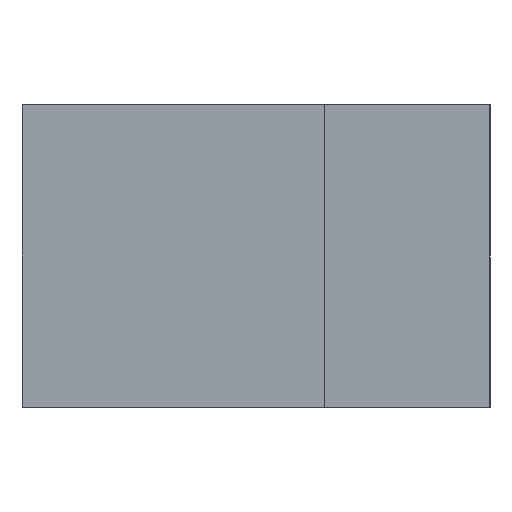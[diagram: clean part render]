
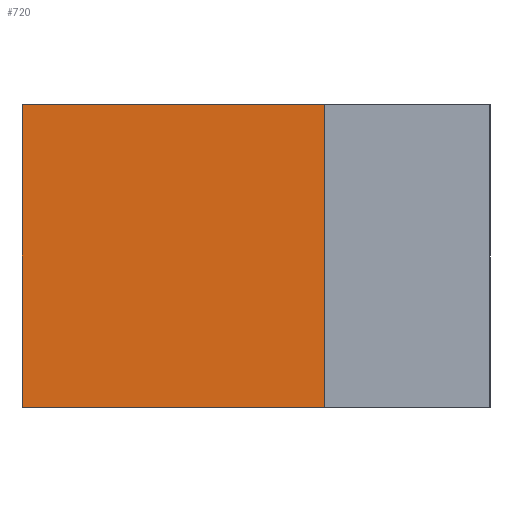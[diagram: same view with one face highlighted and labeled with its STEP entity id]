
A CAD part, left-side view. The second image highlights one B-rep face of the part: STEP entity #720.
In plain terms, the highlighted planar face has unit normal (-1, 0, 0).
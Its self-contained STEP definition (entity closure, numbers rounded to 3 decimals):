
#44 = PLANE('',#45);
#45 = AXIS2_PLACEMENT_3D('',#46,#47,#48);
#46 = CARTESIAN_POINT('',(-99.7,-17.,12.));
#47 = DIRECTION('',(0.,0.,1.));
#48 = DIRECTION('',(1.,0.,0.));
#100 = PLANE('',#101);
#101 = AXIS2_PLACEMENT_3D('',#102,#103,#104);
#102 = CARTESIAN_POINT('',(-99.7,-17.,1.));
#103 = DIRECTION('',(0.,0.,1.));
#104 = DIRECTION('',(1.,0.,0.));
#126 = PLANE('',#127);
#127 = AXIS2_PLACEMENT_3D('',#128,#129,#130);
#128 = CARTESIAN_POINT('',(-111.7,-11.,1.));
#129 = DIRECTION('',(0.,1.,0.));
#130 = DIRECTION('',(0.,0.,1.));
#250 = VERTEX_POINT('',#251);
#251 = CARTESIAN_POINT('',(-111.7,0.,12.));
#265 = PLANE('',#266);
#266 = AXIS2_PLACEMENT_3D('',#267,#268,#269);
#267 = CARTESIAN_POINT('',(-99.7,0.,1.));
#268 = DIRECTION('',(0.,1.,0.));
#269 = DIRECTION('',(0.,0.,1.));
#277 = EDGE_CURVE('',#278,#250,#280,.T.);
#278 = VERTEX_POINT('',#279);
#279 = CARTESIAN_POINT('',(-111.7,-11.,12.));
#280 = SURFACE_CURVE('',#281,(#285,#292),.PCURVE_S1.);
#281 = LINE('',#282,#283);
#282 = CARTESIAN_POINT('',(-111.7,-11.,12.));
#283 = VECTOR('',#284,1.);
#284 = DIRECTION('',(0.,1.,0.));
#285 = PCURVE('',#44,#286);
#286 = DEFINITIONAL_REPRESENTATION('',(#287),#291);
#287 = LINE('',#288,#289);
#288 = CARTESIAN_POINT('',(-12.,6.));
#289 = VECTOR('',#290,1.);
#290 = DIRECTION('',(0.,1.));
#291 = ( GEOMETRIC_REPRESENTATION_CONTEXT(2) 
PARAMETRIC_REPRESENTATION_CONTEXT() REPRESENTATION_CONTEXT('2D SPACE',''
  ) );
#292 = PCURVE('',#293,#298);
#293 = PLANE('',#294);
#294 = AXIS2_PLACEMENT_3D('',#295,#296,#297);
#295 = CARTESIAN_POINT('',(-111.7,-11.,1.));
#296 = DIRECTION('',(1.,0.,0.));
#297 = DIRECTION('',(0.,0.,1.));
#298 = DEFINITIONAL_REPRESENTATION('',(#299),#303);
#299 = LINE('',#300,#301);
#300 = CARTESIAN_POINT('',(11.,0.));
#301 = VECTOR('',#302,1.);
#302 = DIRECTION('',(0.,-1.));
#303 = ( GEOMETRIC_REPRESENTATION_CONTEXT(2) 
PARAMETRIC_REPRESENTATION_CONTEXT() REPRESENTATION_CONTEXT('2D SPACE',''
  ) );
#330 = VERTEX_POINT('',#331);
#331 = CARTESIAN_POINT('',(-111.7,-11.,1.));
#352 = EDGE_CURVE('',#330,#278,#353,.T.);
#353 = SURFACE_CURVE('',#354,(#358,#365),.PCURVE_S1.);
#354 = LINE('',#355,#356);
#355 = CARTESIAN_POINT('',(-111.7,-11.,1.));
#356 = VECTOR('',#357,1.);
#357 = DIRECTION('',(0.,0.,1.));
#358 = PCURVE('',#126,#359);
#359 = DEFINITIONAL_REPRESENTATION('',(#360),#364);
#360 = LINE('',#361,#362);
#361 = CARTESIAN_POINT('',(0.,0.));
#362 = VECTOR('',#363,1.);
#363 = DIRECTION('',(1.,0.));
#364 = ( GEOMETRIC_REPRESENTATION_CONTEXT(2) 
PARAMETRIC_REPRESENTATION_CONTEXT() REPRESENTATION_CONTEXT('2D SPACE',''
  ) );
#365 = PCURVE('',#293,#366);
#366 = DEFINITIONAL_REPRESENTATION('',(#367),#371);
#367 = LINE('',#368,#369);
#368 = CARTESIAN_POINT('',(0.,0.));
#369 = VECTOR('',#370,1.);
#370 = DIRECTION('',(1.,0.));
#371 = ( GEOMETRIC_REPRESENTATION_CONTEXT(2) 
PARAMETRIC_REPRESENTATION_CONTEXT() REPRESENTATION_CONTEXT('2D SPACE',''
  ) );
#507 = VERTEX_POINT('',#508);
#508 = CARTESIAN_POINT('',(-111.7,0.,1.));
#529 = EDGE_CURVE('',#330,#507,#530,.T.);
#530 = SURFACE_CURVE('',#531,(#535,#542),.PCURVE_S1.);
#531 = LINE('',#532,#533);
#532 = CARTESIAN_POINT('',(-111.7,-11.,1.));
#533 = VECTOR('',#534,1.);
#534 = DIRECTION('',(0.,1.,0.));
#535 = PCURVE('',#100,#536);
#536 = DEFINITIONAL_REPRESENTATION('',(#537),#541);
#537 = LINE('',#538,#539);
#538 = CARTESIAN_POINT('',(-12.,6.));
#539 = VECTOR('',#540,1.);
#540 = DIRECTION('',(0.,1.));
#541 = ( GEOMETRIC_REPRESENTATION_CONTEXT(2) 
PARAMETRIC_REPRESENTATION_CONTEXT() REPRESENTATION_CONTEXT('2D SPACE',''
  ) );
#542 = PCURVE('',#293,#543);
#543 = DEFINITIONAL_REPRESENTATION('',(#544),#548);
#544 = LINE('',#545,#546);
#545 = CARTESIAN_POINT('',(0.,0.));
#546 = VECTOR('',#547,1.);
#547 = DIRECTION('',(0.,-1.));
#548 = ( GEOMETRIC_REPRESENTATION_CONTEXT(2) 
PARAMETRIC_REPRESENTATION_CONTEXT() REPRESENTATION_CONTEXT('2D SPACE',''
  ) );
#700 = EDGE_CURVE('',#507,#250,#701,.T.);
#701 = SURFACE_CURVE('',#702,(#706,#713),.PCURVE_S1.);
#702 = LINE('',#703,#704);
#703 = CARTESIAN_POINT('',(-111.7,0.,1.));
#704 = VECTOR('',#705,1.);
#705 = DIRECTION('',(0.,0.,1.));
#706 = PCURVE('',#265,#707);
#707 = DEFINITIONAL_REPRESENTATION('',(#708),#712);
#708 = LINE('',#709,#710);
#709 = CARTESIAN_POINT('',(0.,-12.));
#710 = VECTOR('',#711,1.);
#711 = DIRECTION('',(1.,0.));
#712 = ( GEOMETRIC_REPRESENTATION_CONTEXT(2) 
PARAMETRIC_REPRESENTATION_CONTEXT() REPRESENTATION_CONTEXT('2D SPACE',''
  ) );
#713 = PCURVE('',#293,#714);
#714 = DEFINITIONAL_REPRESENTATION('',(#715),#719);
#715 = LINE('',#716,#717);
#716 = CARTESIAN_POINT('',(0.,-11.));
#717 = VECTOR('',#718,1.);
#718 = DIRECTION('',(1.,0.));
#719 = ( GEOMETRIC_REPRESENTATION_CONTEXT(2) 
PARAMETRIC_REPRESENTATION_CONTEXT() REPRESENTATION_CONTEXT('2D SPACE',''
  ) );
#720 = ADVANCED_FACE('',(#721),#293,.F.);
#721 = FACE_BOUND('',#722,.F.);
#722 = EDGE_LOOP('',(#723,#724,#725,#726));
#723 = ORIENTED_EDGE('',*,*,#352,.F.);
#724 = ORIENTED_EDGE('',*,*,#529,.T.);
#725 = ORIENTED_EDGE('',*,*,#700,.T.);
#726 = ORIENTED_EDGE('',*,*,#277,.F.);
